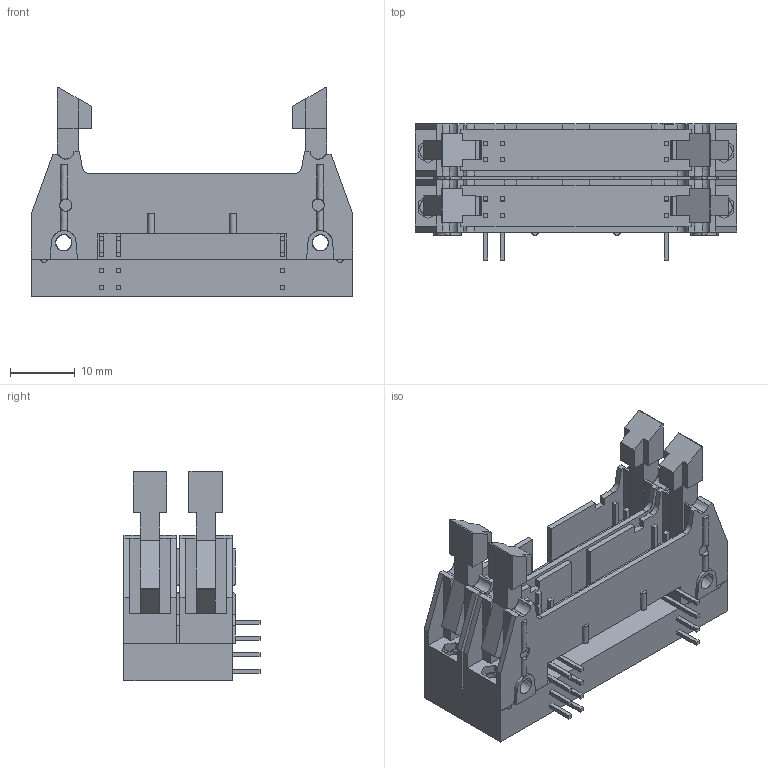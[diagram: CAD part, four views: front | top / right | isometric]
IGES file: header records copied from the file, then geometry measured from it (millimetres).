
Start section: Comment
Global section: file name: N3627-L-302-xxSE.igs; native system:  By Spatial Corp. IGES DAT; preprocessor: XIGES V1.0; author: Author; organization: Title; date: 20070910.154312; units: metre
Bounding box: 49.78 x 21.08 x 32.51 mm (x, y, z)
Surface area: 10623.9 mm2 (no closed solid volume)
Topology: 0 solids, 0 shells, 576 faces, 5976 edges, 5976 vertices
Faces by surface type: extrusion 452, revolution 124
